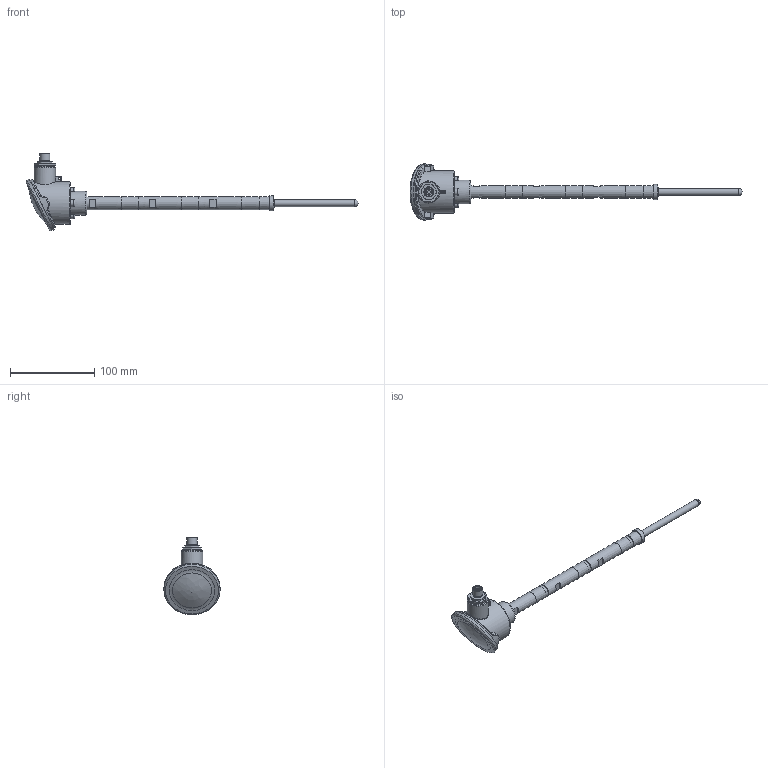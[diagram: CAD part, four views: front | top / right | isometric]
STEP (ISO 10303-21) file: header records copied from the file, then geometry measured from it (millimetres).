
FILE_DESCRIPTION(/* description */ ('Unknown'),/* implementation_level */ '2;1');
FILE_NAME(/* name */ 'TCR6-1120.2111.1310.0610.0100',/* time_stamp */ '2019-02-11T11:16:48+01:00',/* author */ ('Unknown'),/* organization */ ('Unknown'),/* preprocessor_version */ 'ST-DEVELOPER v16.7',/* originating_system */ 'DEX',/* authorisation */ $);
FILE_SCHEMA (('AUTOMOTIVE_DESIGN {1 0 10303 214 3 1 1}'));
Length unit declared in the file: millimetre
Products named in the file (1): Part3
Bounding box: 394.35 x 67 x 92.39 mm (x, y, z)
Volume: 79727.9 mm3; surface area: 54178.8 mm2
Topology: 4 solids, 8 shells, 235 faces, 530 edges, 351 vertices
Faces by surface type: plane 104, cylinder 66, cone 22, torus 20, bspline 18, sphere 5
Full cylindrical faces by diameter (mm): 1.64 x4, 2.5 x1, 6 x1, 7.709 x1, 8 x1, 8.1 x7, 8.5 x3, 9.6 x1, 9.728 x3, 10.5 x1, 11.2 x4, 11.741 x1, 12 x1, 13.1 x4, 13.16 x1, 13.5 x3, 13.8 x1, 14.376 x2, 15.5 x1, 18 x1, 20 x1, 21 x1, 25.5 x1, 28.2 x1, 47 x1, 50 x1, 50.5 x1, 64.5 x1, 67 x1
Entity records: 7578 total; most frequent: CARTESIAN_POINT 2626, DIRECTION 954, ORIENTED_EDGE 774, AXIS2_PLACEMENT_3D 434, EDGE_CURVE 387, FACE_BOUND 381, EDGE_LOOP 378, VERTEX_POINT 300
